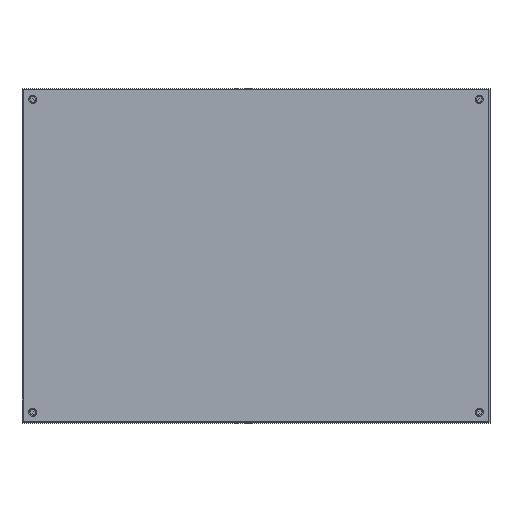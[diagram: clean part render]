
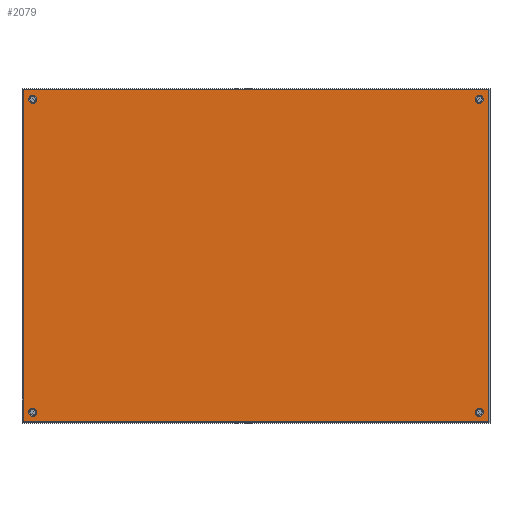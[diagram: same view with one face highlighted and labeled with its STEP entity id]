
A CAD part, top view. The second image highlights one B-rep face of the part: STEP entity #2079.
In plain terms, the highlighted planar face has unit normal (0, 0, 1).
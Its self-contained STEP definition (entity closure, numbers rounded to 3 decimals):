
#207=CIRCLE('',#2895,3.);
#209=CIRCLE('',#2898,3.);
#211=CIRCLE('',#2901,3.);
#213=CIRCLE('',#2904,3.);
#719=ORIENTED_EDGE('',*,*,#1009,.F.);
#720=ORIENTED_EDGE('',*,*,#1007,.F.);
#721=ORIENTED_EDGE('',*,*,#1005,.F.);
#722=ORIENTED_EDGE('',*,*,#1003,.F.);
#723=ORIENTED_EDGE('',*,*,#1010,.F.);
#724=ORIENTED_EDGE('',*,*,#1011,.F.);
#725=ORIENTED_EDGE('',*,*,#1012,.F.);
#726=ORIENTED_EDGE('',*,*,#1001,.F.);
#1001=EDGE_CURVE('',#1190,#1191,#1352,.T.);
#1003=EDGE_CURVE('',#1192,#1192,#207,.T.);
#1005=EDGE_CURVE('',#1194,#1194,#209,.T.);
#1007=EDGE_CURVE('',#1196,#1196,#211,.T.);
#1009=EDGE_CURVE('',#1198,#1198,#213,.T.);
#1010=EDGE_CURVE('',#1199,#1190,#1354,.T.);
#1011=EDGE_CURVE('',#1200,#1199,#1355,.T.);
#1012=EDGE_CURVE('',#1191,#1200,#1356,.T.);
#1190=VERTEX_POINT('',#4148);
#1191=VERTEX_POINT('',#4150);
#1192=VERTEX_POINT('',#4154);
#1194=VERTEX_POINT('',#4159);
#1196=VERTEX_POINT('',#4164);
#1198=VERTEX_POINT('',#4169);
#1199=VERTEX_POINT('',#4171);
#1200=VERTEX_POINT('',#4173);
#1352=LINE('',#4149,#1504);
#1354=LINE('',#4170,#1506);
#1355=LINE('',#4172,#1507);
#1356=LINE('',#4174,#1508);
#1504=VECTOR('',#3451,1000.);
#1506=VECTOR('',#3475,1000.);
#1507=VECTOR('',#3476,1000.);
#1508=VECTOR('',#3477,1000.);
#1673=EDGE_LOOP('',(#719));
#1674=EDGE_LOOP('',(#720));
#1675=EDGE_LOOP('',(#721));
#1676=EDGE_LOOP('',(#722));
#1677=EDGE_LOOP('',(#723,#724,#725,#726));
#1862=FACE_BOUND('',#1673,.T.);
#1863=FACE_BOUND('',#1674,.T.);
#1864=FACE_BOUND('',#1675,.T.);
#1865=FACE_BOUND('',#1676,.T.);
#1866=FACE_BOUND('',#1677,.T.);
#1958=PLANE('',#2903);
#2079=ADVANCED_FACE('',(#1862,#1863,#1864,#1865,#1866),#1958,.F.);
#2895=AXIS2_PLACEMENT_3D('',#4153,#3455,#3456);
#2898=AXIS2_PLACEMENT_3D('',#4158,#3461,#3462);
#2901=AXIS2_PLACEMENT_3D('',#4163,#3467,#3468);
#2903=AXIS2_PLACEMENT_3D('',#4167,#3471,#3472);
#2904=AXIS2_PLACEMENT_3D('',#4168,#3473,#3474);
#3451=DIRECTION('',(0.,1.,0.));
#3455=DIRECTION('',(0.,0.,1.));
#3456=DIRECTION('',(0.,1.,0.));
#3461=DIRECTION('',(0.,0.,1.));
#3462=DIRECTION('',(0.,1.,0.));
#3467=DIRECTION('',(0.,0.,1.));
#3468=DIRECTION('',(0.,1.,0.));
#3471=DIRECTION('',(0.,0.,-1.));
#3472=DIRECTION('',(-1.,0.,0.));
#3473=DIRECTION('',(0.,0.,1.));
#3474=DIRECTION('',(0.,1.,0.));
#3475=DIRECTION('',(-1.,0.,0.));
#3476=DIRECTION('',(0.,-1.,0.));
#3477=DIRECTION('',(1.,0.,0.));
#4148=CARTESIAN_POINT('',(-174.25,-124.25,0.));
#4149=CARTESIAN_POINT('',(-174.25,-124.25,0.));
#4150=CARTESIAN_POINT('',(-174.25,124.25,0.));
#4153=CARTESIAN_POINT('',(-167.,-117.,0.));
#4154=CARTESIAN_POINT('',(-167.,-114.,0.));
#4158=CARTESIAN_POINT('',(-167.,117.,0.));
#4159=CARTESIAN_POINT('',(-167.,120.,0.));
#4163=CARTESIAN_POINT('',(167.,-117.,0.));
#4164=CARTESIAN_POINT('',(167.,-114.,0.));
#4167=CARTESIAN_POINT('',(0.,0.,0.));
#4168=CARTESIAN_POINT('',(167.,117.,0.));
#4169=CARTESIAN_POINT('',(167.,120.,0.));
#4170=CARTESIAN_POINT('',(174.25,-124.25,0.));
#4171=CARTESIAN_POINT('',(174.25,-124.25,0.));
#4172=CARTESIAN_POINT('',(174.25,124.25,0.));
#4173=CARTESIAN_POINT('',(174.25,124.25,0.));
#4174=CARTESIAN_POINT('',(-174.25,124.25,0.));
